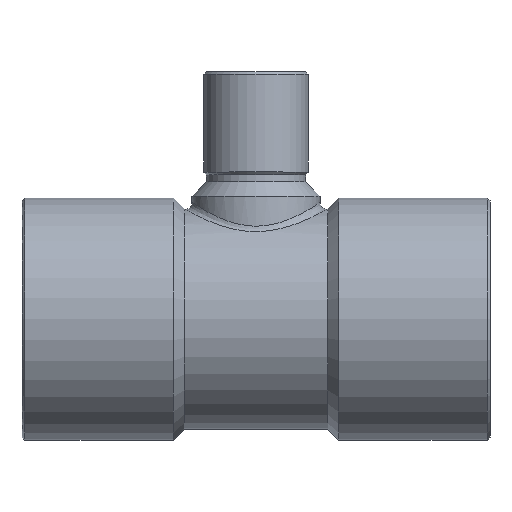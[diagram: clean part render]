
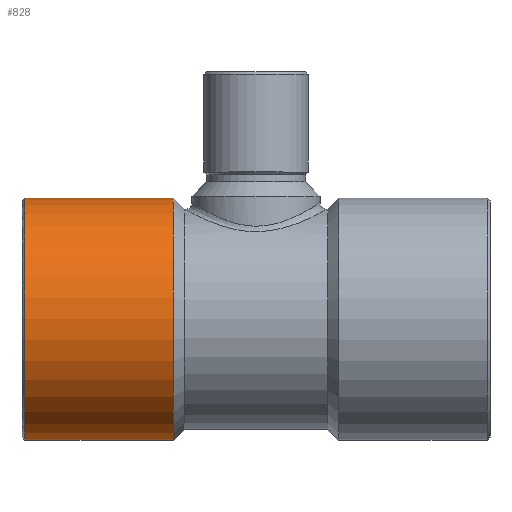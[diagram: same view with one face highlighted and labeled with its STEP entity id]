
A CAD part, top view. The second image highlights one B-rep face of the part: STEP entity #828.
In plain terms, the highlighted cylindrical face has radius 8.8 mm (diameter 17.6 mm), a partial arc.
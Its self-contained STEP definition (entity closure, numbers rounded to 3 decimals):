
#266=CARTESIAN_POINT('',(-6.,8.8,0.0));
#267=VERTEX_POINT('',#266);
#274=CARTESIAN_POINT('',(-6.0,-8.8,0.));
#275=VERTEX_POINT('',#274);
#276=CARTESIAN_POINT('',(-6.,0.0,0.0));
#277=DIRECTION('',(1.0,0.0,0.0));
#278=DIRECTION('',(0.0,1.0,0.0));
#279=AXIS2_PLACEMENT_3D('',#276,#277,#278);
#280=CIRCLE('',#279,8.8);
#281=EDGE_CURVE('',#267,#275,#280,.T.);
#797=CARTESIAN_POINT('',(-11.5,0.0,0.0));
#798=DIRECTION('',(1.0,0.0,0.0));
#799=DIRECTION('',(0.0,1.0,0.0));
#800=AXIS2_PLACEMENT_3D('',#797,#798,#799);
#801=CYLINDRICAL_SURFACE('',#800,8.8);
#802=CARTESIAN_POINT('',(-16.8,8.8,0.));
#803=VERTEX_POINT('',#802);
#804=CARTESIAN_POINT('',(-16.8,8.8,0.));
#805=DIRECTION('',(1.0,0.0,0.0));
#806=VECTOR('',#805,10.8);
#807=LINE('',#804,#806);
#808=EDGE_CURVE('',#803,#267,#807,.T.);
#809=ORIENTED_EDGE('',*,*,#808,.F.);
#810=CARTESIAN_POINT('',(-16.8,-8.8,0.));
#811=VERTEX_POINT('',#810);
#812=CARTESIAN_POINT('',(-16.8,0.0,0.0));
#813=DIRECTION('',(-1.0,0.0,0.0));
#814=DIRECTION('',(0.0,-1.0,0.0));
#815=AXIS2_PLACEMENT_3D('',#812,#813,#814);
#816=CIRCLE('',#815,8.8);
#817=EDGE_CURVE('',#811,#803,#816,.T.);
#818=ORIENTED_EDGE('',*,*,#817,.F.);
#819=CARTESIAN_POINT('',(-6.0,-8.8,0.));
#820=DIRECTION('',(-1.0,0.0,0.0));
#821=VECTOR('',#820,10.8);
#822=LINE('',#819,#821);
#823=EDGE_CURVE('',#275,#811,#822,.T.);
#824=ORIENTED_EDGE('',*,*,#823,.F.);
#825=ORIENTED_EDGE('',*,*,#281,.F.);
#826=EDGE_LOOP('',(#809,#818,#824,#825));
#827=FACE_OUTER_BOUND('',#826,.T.);
#828=ADVANCED_FACE('',(#827),#801,.T.);
